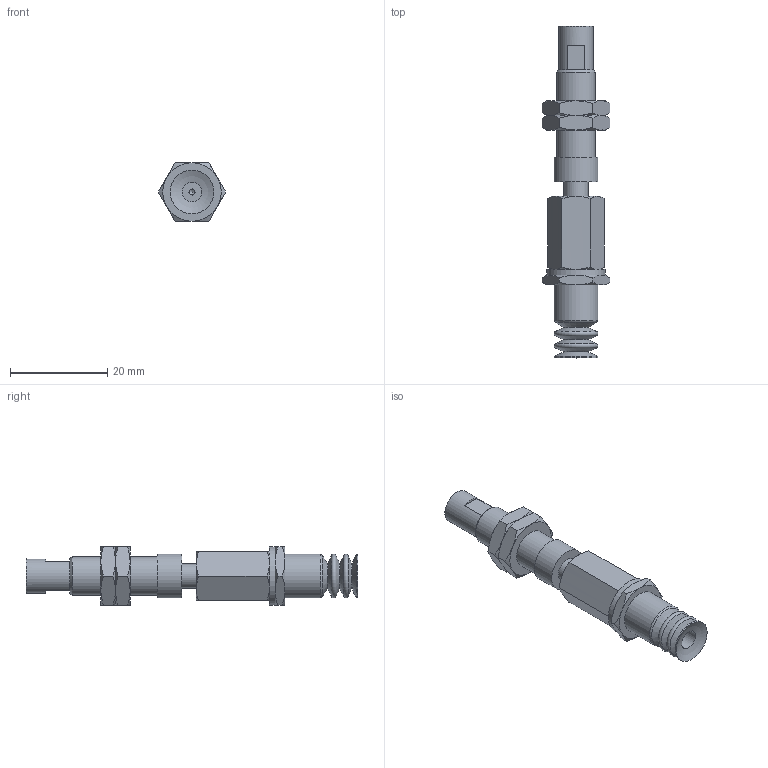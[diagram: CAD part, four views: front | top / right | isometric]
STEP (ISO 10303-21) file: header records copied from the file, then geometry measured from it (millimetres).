
FILE_DESCRIPTION(('STEP AP203'),'1');
FILE_NAME('.stp','2025-08-27T02:04:46',(' '),(' '),'Spatial InterOp 3D',' ',' ');
FILE_SCHEMA(('CONFIG_CONTROL_DESIGN'));
Length unit declared in the file: millimetre
Products named in the file (7): BNABPCTS-10-3-※; ADAPTER; NAPCTS-10-3-MBODY; Adapter_napc-10-T; Nut napc_s-10-3; NAPCTS-10-3-FBODY; BPCG-10-※
Assembly tree (7 placements, depth 2):
  BNABPCTS-10-3-※
    ADAPTER
    NAPCTS-10-3-MBODY
    Adapter_napc-10-T
    Nut napc_s-10-3  x2
    NAPCTS-10-3-FBODY
    BPCG-10-※
Bounding box: 13.86 x 68.2 x 12 mm (x, y, z)
Volume: 4324 mm3; surface area: 4712.8 mm2
Topology: 7 solids, 7 shells, 142 faces, 287 edges, 166 vertices
Faces by surface type: cone 64, plane 49, cylinder 19, torus 8, sphere 2
Full cylindrical faces by diameter (mm): 1.25 x1, 4 x1, 4.134 x2, 5 x7, 7 x1, 7.188 x2, 8 x1, 9 x3, 12 x1
Entity records: 3568 total; most frequent: CARTESIAN_POINT 996, DIRECTION 470, ORIENTED_EDGE 386, AXIS2_PLACEMENT_3D 222, EDGE_CURVE 193, EDGE_LOOP 176, FACE_OUTER_BOUND 147, VERTEX_POINT 136
